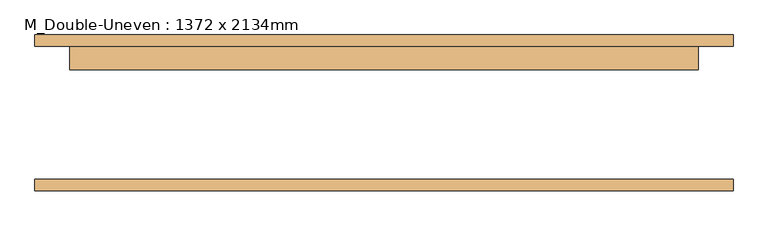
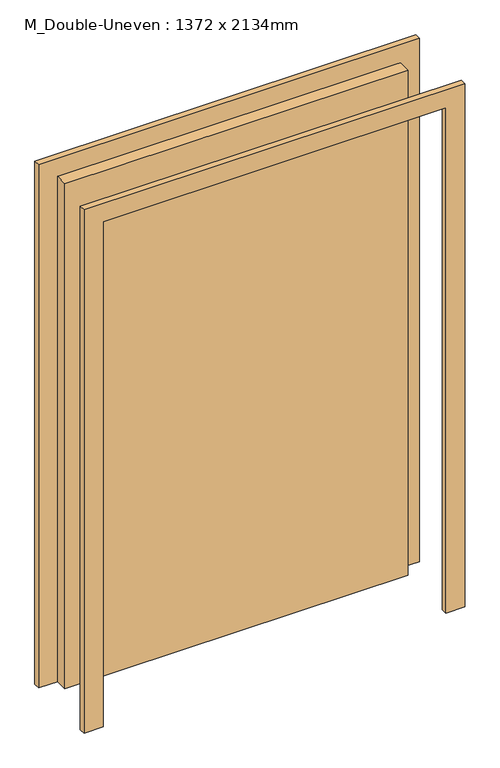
"""IFC4 building model written with IfcOpenShell, lengths in millimetres: door geometry, M_Double-Uneven : 1372 x 2134mm."""

from ifc_helpers import new_model, si_unit, frame, origin, origin_with_axes, place, context, project, spatial, polyline, outline, extrude, source, transform, mapped, element, save


def m_double_uneven_1372_x_2134mm_c0331c7c(model_context):
    return source(origin(), model_context, "Body", "SweptSolid", [
        extrude(outline(polyline([(102.0, 145.0), (102.0, 94.0), (-1270.0, 94.0), (-1270.0, 145.0), (102.0, 145.0)])), origin_with_axes(), (0.0, 0.0, 1.0), 2134.0),
        extrude(outline(polyline([(2134.0, -1270.0), (2134.0, 102.0), (0.0, 102.0), (0.0, 178.0), (2210.0, 178.0), (2210.0, -1346.0), (0.0, -1346.0), (0.0, -1270.0), (2134.0, -1270.0)])), frame((0.0, -170.0, 0.0), z_axis=(0.0, 1.0, 0.0), x_axis=(0.0, 0.0, 1.0)), (0.0, 0.0, 1.0), 25.0),
        extrude(outline(polyline([(2134.0, -1270.0), (2134.0, 102.0), (0.0, 102.0), (0.0, 178.0), (2210.0, 178.0), (2210.0, -1346.0), (0.0, -1346.0), (0.0, -1270.0), (2134.0, -1270.0)])), frame((0.0, 145.0, 0.0), z_axis=(0.0, 1.0, 0.0), x_axis=(0.0, 0.0, 1.0)), (0.0, 0.0, 1.0), 25.0),
    ])


if __name__ == "__main__":
    model = new_model("IFC4")
    model_context = context("Model", 3, world=origin())
    ifc_project = project(units=[si_unit("LENGTHUNIT", "METRE", prefix="MILLI")], contexts=[model_context])
    site = spatial("IfcSite", under=ifc_project)
    building = spatial("IfcBuilding", under=site)
    placement = place(None, origin())
    m_double_uneven_1372_x_2134mm_shape = m_double_uneven_1372_x_2134mm_c0331c7c(model_context)
    element("IfcDoor", 1, ObjectType="M_Double-Uneven : 1372 x 2134mm", at=placement, inside=building, context=model_context, shape_type="MappedRepresentation", body=[
        mapped(m_double_uneven_1372_x_2134mm_shape, transform((0.0, 0.0, 0.0), x_axis=(1.0, 0.0, 0.0), y_axis=(0.0, 1.0, 0.0), z_axis=(0.0, 0.0, 1.0))),
    ])
    save(model, "model.ifc")
